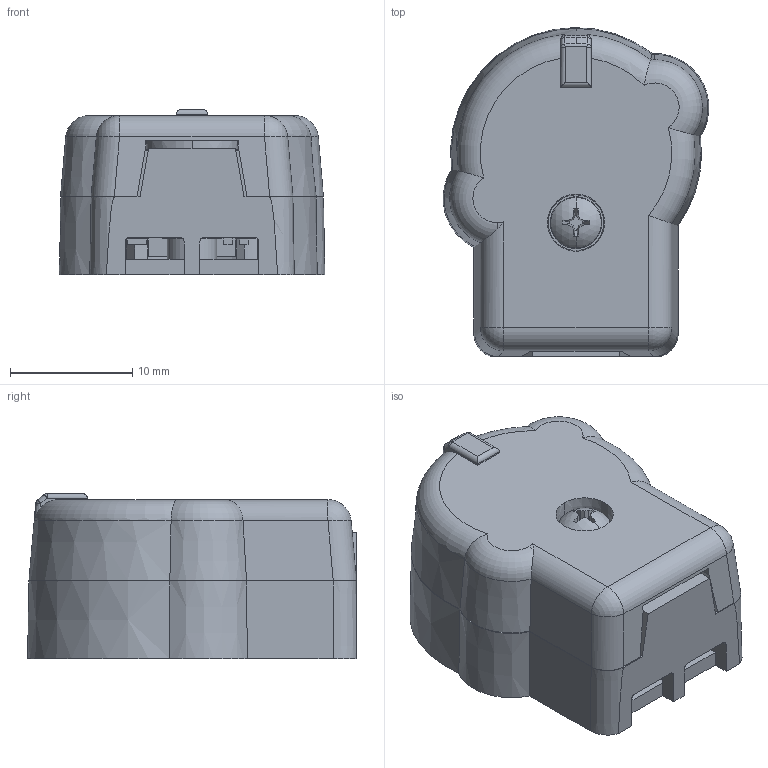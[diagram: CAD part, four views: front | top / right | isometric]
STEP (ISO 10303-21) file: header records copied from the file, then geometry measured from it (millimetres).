
FILE_DESCRIPTION (( 'STEP AP214' ), '1' );
FILE_NAME ('SRX_Mag_Encoder_15-697867.STEP', '2017-08-16T18:50:56', ( 'ART' ), ( 'Microsoft' ), 'SwSTEP 2.0', 'SolidWorks 2015', '' );
FILE_SCHEMA (( 'AUTOMOTIVE_DESIGN' ));
Length unit declared in the file: inch
Products named in the file (1): SRX_Mag_Encoder_15-697867
Bounding box: 21.73 x 26.91 x 13.51 mm (x, y, z)
Volume: 3063.7 mm3; surface area: 5941.1 mm2
Topology: 19 solids, 19 shells, 713 faces, 1882 edges, 1231 vertices
Faces by surface type: plane 472, cylinder 148, cone 64, torus 12, bspline 9, sphere 8
Entity records: 34132 total; most frequent: CARTESIAN_POINT 7252, ORIENTED_EDGE 3756, DIRECTION 3330, EDGE_CURVE 1878, LINE 1300, VECTOR 1300, VERTEX_POINT 1231, AXIS2_PLACEMENT_3D 1015
